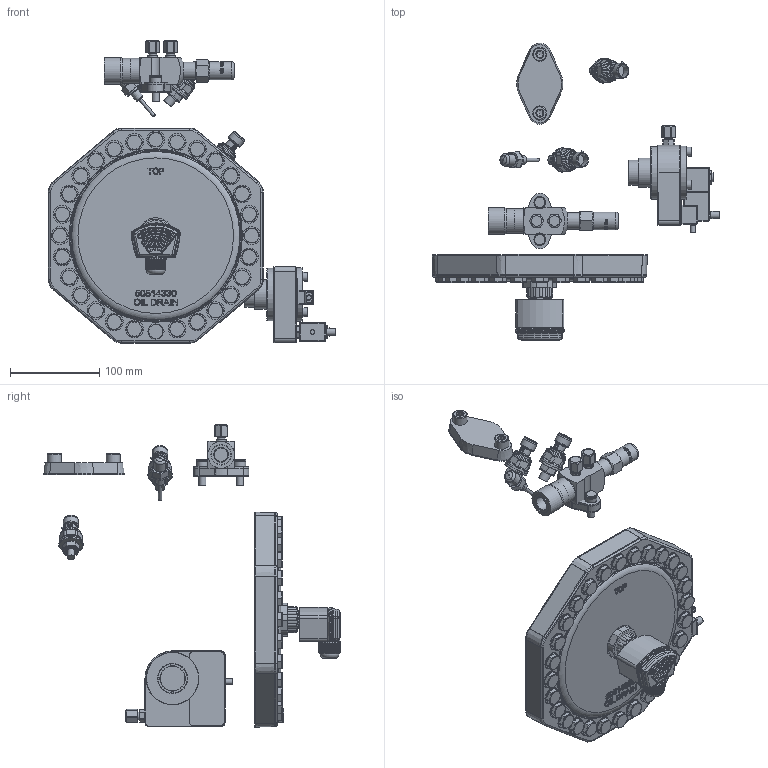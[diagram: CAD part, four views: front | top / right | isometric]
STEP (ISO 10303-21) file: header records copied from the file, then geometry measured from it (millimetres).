
FILE_DESCRIPTION(/* description */ (''),/* implementation_level */ '2;1');
FILE_NAME(/* name */ '4FME-4EME-4DME-OPTION_Arrangement 1.stp',/* time_stamp */ '2025-06-03T12:00:15+02:00',/* author */ (''),/* organization */ (''),/* preprocessor_version */ 'ST-DEVELOPER v20',/* originating_system */ 'SIEMENS PLM Software NX2406.8100',/* authorisation */ '');
FILE_SCHEMA (('AUTOMOTIVE_DESIGN { 1 0 10303 214 3 1 1 1 }'));
Length unit declared in the file: millimetre
Products named in the file (13): PRESSURE-TRANSDUCER-5PP6-40-HP; PT1000; PRESSURE-TRANSDUCER-5PP6-39-ND; BEARING-COVER-OLC-K1-CKHE3; SHUT-OFF-VALVE-DI22-DA30-DN20; SHUT-OFF-VALVE-DI16-DA22-DN12; SEAL-SCREW-3-4-24UNF-1-2-20UNF; BEARING-COVER-SIGHT-GLAS-CKHE3; OIL-LEVEL-MONITORING-OLM-IQ-2; BLIND-FLANGE-OVAL; BLIND-FLANGE-HD-42; PROTECT-DEVICE-IQ-MODULE-CPL; 4FME-4EME-4DME-OPTION
Assembly tree (12 placements, depth 3):
  4FME-4EME-4DME-OPTION
    BLIND-FLANGE-HD-42
    BLIND-FLANGE-OVAL
    OIL-LEVEL-MONITORING-OLM-IQ-2
    BEARING-COVER-SIGHT-GLAS-CKHE3
    SEAL-SCREW-3-4-24UNF-1-2-20UNF
    PROTECT-DEVICE-IQ-MODULE-CPL
      PRESSURE-TRANSDUCER-5PP6-39-ND
      PT1000
      PRESSURE-TRANSDUCER-5PP6-40-HP
    SHUT-OFF-VALVE-DI16-DA22-DN12
    SHUT-OFF-VALVE-DI22-DA30-DN20
    BEARING-COVER-OLC-K1-CKHE3
Bounding box: 322.45 x 333.6 x 339.1 mm (x, y, z)
Volume: 3197898.7 mm3; surface area: 393292.1 mm2
Topology: 12 solids, 17 shells, 3901 faces, 9517 edges, 5947 vertices
Faces by surface type: plane 1881, cylinder 767, cone 572, bspline 271, torus 263, extrusion 124, sphere 23
Full cylindrical faces by diameter (mm): 4 x2, 5 x3, 6 x1, 8 x6, 9 x9, 9.8 x1, 10 x5, 10.287 x1, 10.835 x1, 11 x4, 13 x9, 14.63 x56, 15 x1, 15.6 x1, 15.7 x2, 15.9 x1, 16 x5, 16.1 x1, 16.95 x2, 17 x3, 17.5 x2, 18 x3, 19 x5, 19.9 x2, 20 x54, 21.25 x1, 22 x1, 22.35 x1, 23.86 x2, 24 x3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
Entity records: 145152 total; most frequent: CARTESIAN_POINT 49877, ORIENTED_EDGE 18002, DIRECTION 16233, EDGE_CURVE 9001, AXIS2_PLACEMENT_3D 6167, VERTEX_POINT 5821, EDGE_LOOP 4592, ADVANCED_FACE 3901
